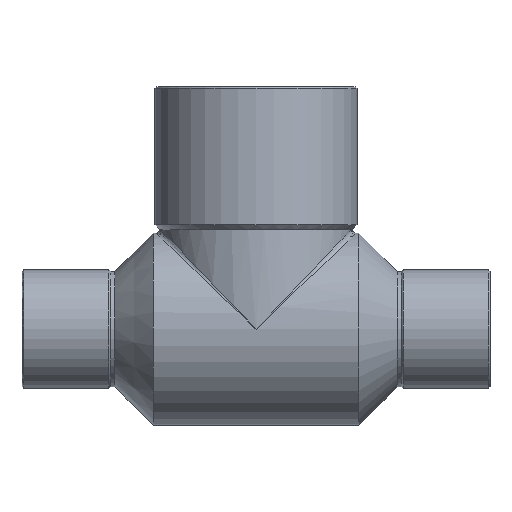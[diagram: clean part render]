
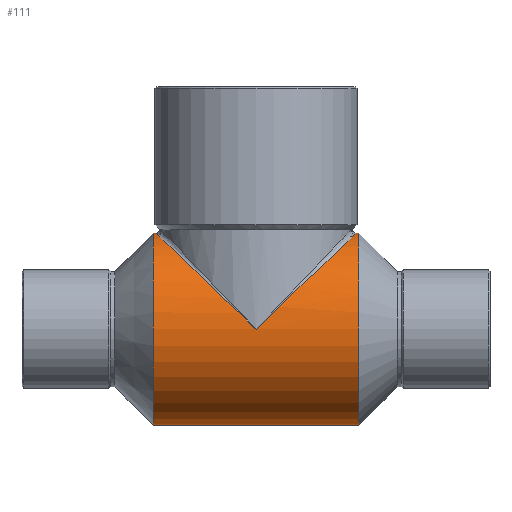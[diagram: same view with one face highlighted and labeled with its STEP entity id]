
A CAD part, top view. The second image highlights one B-rep face of the part: STEP entity #111.
In plain terms, the highlighted cylindrical face has radius 11.5 mm (diameter 23 mm), a partial arc.
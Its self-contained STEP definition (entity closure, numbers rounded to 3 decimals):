
#44=CARTESIAN_POINT('',(0.0,0.,0.0));
#45=DIRECTION('',(1.0,0.,0.0));
#46=DIRECTION('',(0.0,1.0,0.0));
#47=AXIS2_PLACEMENT_3D('',#44,#45,#46);
#48=CYLINDRICAL_SURFACE('',#47,11.5);
#49=CARTESIAN_POINT('',(-12.29,11.5,0.0));
#50=VERTEX_POINT('',#49);
#51=CARTESIAN_POINT('',(-12.,11.5,0.));
#52=VERTEX_POINT('',#51);
#53=CARTESIAN_POINT('',(-12.29,11.5,0.0));
#54=DIRECTION('',(1.0,0.0,0.0));
#55=VECTOR('',#54,0.29);
#56=LINE('',#53,#55);
#57=EDGE_CURVE('',#50,#52,#56,.T.);
#58=ORIENTED_EDGE('',*,*,#57,.F.);
#59=CARTESIAN_POINT('',(-12.29,-11.5,0.));
#60=VERTEX_POINT('',#59);
#61=CARTESIAN_POINT('',(-12.29,0.,0.0));
#62=DIRECTION('',(1.0,0.0,0.0));
#63=DIRECTION('',(0.0,1.0,0.0));
#64=AXIS2_PLACEMENT_3D('',#61,#62,#63);
#65=CIRCLE('',#64,11.5);
#66=EDGE_CURVE('',#50,#60,#65,.T.);
#67=ORIENTED_EDGE('',*,*,#66,.T.);
#68=CARTESIAN_POINT('',(12.29,-11.5,0.));
#69=VERTEX_POINT('',#68);
#70=CARTESIAN_POINT('',(12.29,-11.5,0.));
#71=DIRECTION('',(-1.0,0.0,0.0));
#72=VECTOR('',#71,24.58);
#73=LINE('',#70,#72);
#74=EDGE_CURVE('',#69,#60,#73,.T.);
#75=ORIENTED_EDGE('',*,*,#74,.F.);
#76=CARTESIAN_POINT('',(12.29,11.5,0.0));
#77=VERTEX_POINT('',#76);
#78=CARTESIAN_POINT('',(12.29,0.,0.0));
#79=DIRECTION('',(-1.0,0.0,0.0));
#80=DIRECTION('',(0.0,1.0,0.0));
#81=AXIS2_PLACEMENT_3D('',#78,#79,#80);
#82=CIRCLE('',#81,11.5);
#83=EDGE_CURVE('',#69,#77,#82,.T.);
#84=ORIENTED_EDGE('',*,*,#83,.T.);
#85=CARTESIAN_POINT('',(12.,11.5,0.));
#86=VERTEX_POINT('',#85);
#87=CARTESIAN_POINT('',(12.,11.5,0.));
#88=DIRECTION('',(1.0,0.0,0.0));
#89=VECTOR('',#88,0.29);
#90=LINE('',#87,#89);
#91=EDGE_CURVE('',#86,#77,#90,.T.);
#92=ORIENTED_EDGE('',*,*,#91,.F.);
#93=CARTESIAN_POINT('',(0.,0.,11.5));
#94=VERTEX_POINT('',#93);
#95=CARTESIAN_POINT('',(0.0,0.,0.0));
#96=DIRECTION('',(-0.692,0.722,0.));
#97=DIRECTION('',(0.722,0.692,0.0));
#98=AXIS2_PLACEMENT_3D('',#95,#96,#97);
#99=ELLIPSE('',#98,16.621,11.5);
#100=EDGE_CURVE('',#94,#86,#99,.T.);
#101=ORIENTED_EDGE('',*,*,#100,.F.);
#102=CARTESIAN_POINT('',(0.0,0.,0.0));
#103=DIRECTION('',(0.692,0.722,0.));
#104=DIRECTION('',(-0.722,0.692,0.0));
#105=AXIS2_PLACEMENT_3D('',#102,#103,#104);
#106=ELLIPSE('',#105,16.621,11.5);
#107=EDGE_CURVE('',#52,#94,#106,.T.);
#108=ORIENTED_EDGE('',*,*,#107,.F.);
#109=EDGE_LOOP('',(#58,#67,#75,#84,#92,#101,#108));
#110=FACE_OUTER_BOUND('',#109,.T.);
#111=ADVANCED_FACE('',(#110),#48,.T.);
